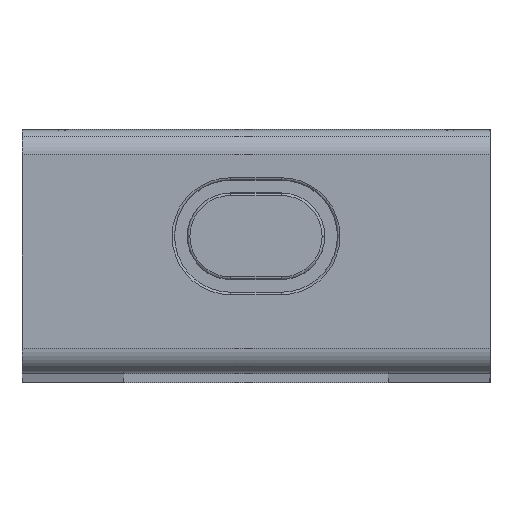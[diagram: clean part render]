
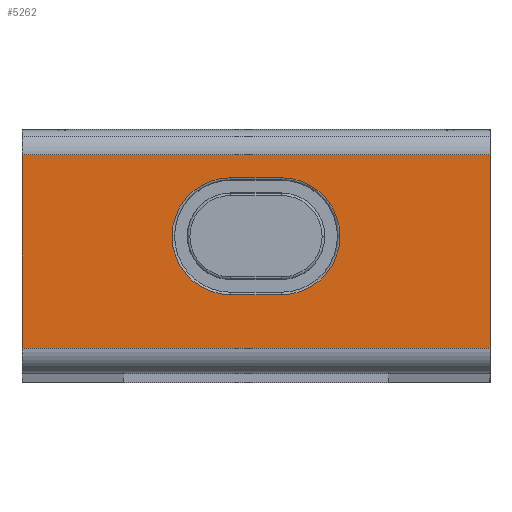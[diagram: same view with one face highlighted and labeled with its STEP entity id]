
A CAD part, top view. The second image highlights one B-rep face of the part: STEP entity #5262.
In plain terms, the highlighted planar face has unit normal (0, 0, 1).
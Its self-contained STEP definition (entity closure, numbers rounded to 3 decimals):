
#256 = AXIS2_PLACEMENT_3D ( 'NONE', #3078, #6603, #10181 ) ;
#957 = VERTEX_POINT ( 'NONE', #4230 ) ;
#1008 = EDGE_CURVE ( 'NONE', #9019, #957, #6771, .T. ) ;
#1183 = CARTESIAN_POINT ( 'NONE',  ( -22.179, -22.244, 101.5 ) ) ;
#1265 = AXIS2_PLACEMENT_3D ( 'NONE', #4539, #5385, #10855 ) ;
#1310 = VECTOR ( 'NONE', #7845, 1000. ) ;
#1334 = CARTESIAN_POINT ( 'NONE',  ( -30.879, -16.744, 101.5 ) ) ;
#1338 = CARTESIAN_POINT ( 'NONE',  ( -12.479, -24.344, 101.5 ) ) ;
#1361 = ORIENTED_EDGE ( 'NONE', *, *, #3429, .F. ) ;
#1403 = VECTOR ( 'NONE', #8520, 1000. ) ;
#1426 = FACE_OUTER_BOUND ( 'NONE', #2424, .T. ) ;
#1482 = CARTESIAN_POINT ( 'NONE',  ( -30.879, -15.744, 101.5 ) ) ;
#1531 = DIRECTION ( 'NONE',  ( -1., 0., 0. ) ) ;
#1883 = EDGE_CURVE ( 'NONE', #957, #2818, #2168, .T. ) ;
#1912 = CARTESIAN_POINT ( 'NONE',  ( -30.879, -24.344, 101.5 ) ) ;
#2066 = CARTESIAN_POINT ( 'NONE',  ( -12.479, -25.344, 101.5 ) ) ;
#2168 = CIRCLE ( 'NONE', #1265, 2.3 ) ;
#2424 = EDGE_LOOP ( 'NONE', ( #10897, #8502, #3452, #10268 ) ) ;
#2487 = VECTOR ( 'NONE', #8450, 1000. ) ;
#2502 = VERTEX_POINT ( 'NONE', #8197 ) ;
#2610 = VERTEX_POINT ( 'NONE', #1338 ) ;
#2818 = VERTEX_POINT ( 'NONE', #8966 ) ;
#2936 = AXIS2_PLACEMENT_3D ( 'NONE', #5359, #3651, #8260 ) ;
#2940 = CARTESIAN_POINT ( 'NONE',  ( -20.679, -17.644, 101.5 ) ) ;
#3000 = VECTOR ( 'NONE', #1531, 1000. ) ;
#3043 = EDGE_CURVE ( 'NONE', #9086, #6356, #11040, .T. ) ;
#3078 = CARTESIAN_POINT ( 'NONE',  ( -21.679, -20.536, 101.5 ) ) ;
#3429 = EDGE_CURVE ( 'NONE', #2502, #9019, #5317, .T. ) ;
#3452 = ORIENTED_EDGE ( 'NONE', *, *, #6834, .F. ) ;
#3465 = LINE ( 'NONE', #6121, #1310 ) ;
#3651 = DIRECTION ( 'NONE',  ( 0., 0., 1. ) ) ;
#4072 = EDGE_CURVE ( 'NONE', #2610, #6553, #5893, .T. ) ;
#4139 = DIRECTION ( 'NONE',  ( 0., -1., 0. ) ) ;
#4182 = EDGE_CURVE ( 'NONE', #2610, #6356, #3465, .T. ) ;
#4230 = CARTESIAN_POINT ( 'NONE',  ( -22.679, -17.644, 101.5 ) ) ;
#4539 = CARTESIAN_POINT ( 'NONE',  ( -22.679, -19.944, 101.5 ) ) ;
#4603 = VECTOR ( 'NONE', #5573, 1000. ) ;
#4611 = LINE ( 'NONE', #1183, #1403 ) ;
#5036 = ORIENTED_EDGE ( 'NONE', *, *, #1008, .F. ) ;
#5262 = ADVANCED_FACE ( 'NONE', ( #9174, #1426 ), #8384, .T. ) ;
#5303 = EDGE_LOOP ( 'NONE', ( #7745, #5036, #1361, #8759 ) ) ;
#5317 = CIRCLE ( 'NONE', #2936, 2.3 ) ;
#5359 = CARTESIAN_POINT ( 'NONE',  ( -20.679, -19.944, 101.5 ) ) ;
#5385 = DIRECTION ( 'NONE',  ( 0., 0., 1. ) ) ;
#5573 = DIRECTION ( 'NONE',  ( 0., 1., 0. ) ) ;
#5754 = EDGE_CURVE ( 'NONE', #2818, #2502, #4611, .T. ) ;
#5760 = VECTOR ( 'NONE', #4139, 1000. ) ;
#5893 = LINE ( 'NONE', #2066, #4603 ) ;
#6121 = CARTESIAN_POINT ( 'NONE',  ( -19.079, -24.344, 101.5 ) ) ;
#6356 = VERTEX_POINT ( 'NONE', #1912 ) ;
#6553 = VERTEX_POINT ( 'NONE', #7482 ) ;
#6603 = DIRECTION ( 'NONE',  ( 0., 0., 1. ) ) ;
#6771 = LINE ( 'NONE', #9394, #3000 ) ;
#6834 = EDGE_CURVE ( 'NONE', #9086, #6553, #11083, .T. ) ;
#7482 = CARTESIAN_POINT ( 'NONE',  ( -12.479, -16.744, 101.5 ) ) ;
#7745 = ORIENTED_EDGE ( 'NONE', *, *, #1883, .F. ) ;
#7845 = DIRECTION ( 'NONE',  ( -1., 0., 0. ) ) ;
#8197 = CARTESIAN_POINT ( 'NONE',  ( -20.679, -22.244, 101.5 ) ) ;
#8260 = DIRECTION ( 'NONE',  ( 1., 0., 0. ) ) ;
#8384 = PLANE ( 'NONE',  #256 ) ;
#8450 = DIRECTION ( 'NONE',  ( 1., 0., 0. ) ) ;
#8502 = ORIENTED_EDGE ( 'NONE', *, *, #4072, .T. ) ;
#8520 = DIRECTION ( 'NONE',  ( 1., 0., 0. ) ) ;
#8759 = ORIENTED_EDGE ( 'NONE', *, *, #5754, .F. ) ;
#8966 = CARTESIAN_POINT ( 'NONE',  ( -22.679, -22.244, 101.5 ) ) ;
#9019 = VERTEX_POINT ( 'NONE', #2940 ) ;
#9086 = VERTEX_POINT ( 'NONE', #1334 ) ;
#9174 = FACE_BOUND ( 'NONE', #5303, .T. ) ;
#9394 = CARTESIAN_POINT ( 'NONE',  ( -21.179, -17.644, 101.5 ) ) ;
#10181 = DIRECTION ( 'NONE',  ( 1., 0., 0. ) ) ;
#10268 = ORIENTED_EDGE ( 'NONE', *, *, #3043, .T. ) ;
#10855 = DIRECTION ( 'NONE',  ( -1., 0., 0. ) ) ;
#10897 = ORIENTED_EDGE ( 'NONE', *, *, #4182, .F. ) ;
#10967 = CARTESIAN_POINT ( 'NONE',  ( -17.079, -16.744, 101.5 ) ) ;
#11040 = LINE ( 'NONE', #1482, #5760 ) ;
#11083 = LINE ( 'NONE', #10967, #2487 ) ;
